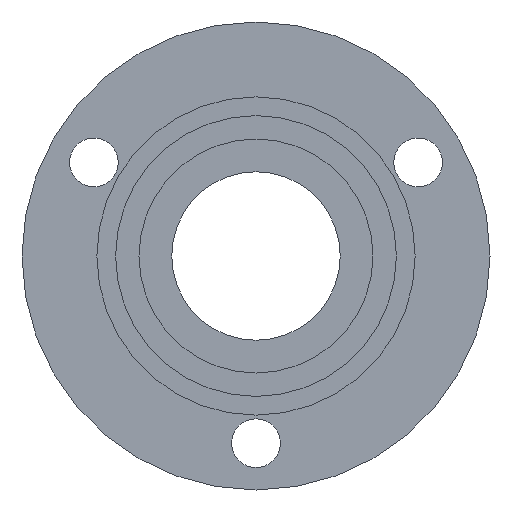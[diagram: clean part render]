
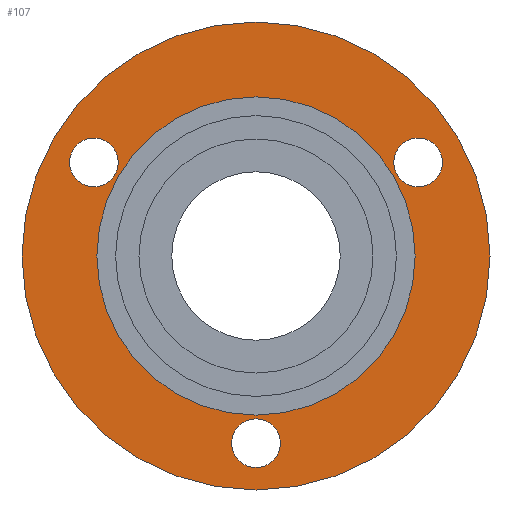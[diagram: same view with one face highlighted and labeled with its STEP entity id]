
A CAD part, front view. The second image highlights one B-rep face of the part: STEP entity #107.
In plain terms, the highlighted planar face has unit normal (0, -1, 0).
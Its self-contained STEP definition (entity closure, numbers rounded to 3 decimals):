
#107 = ADVANCED_FACE( '', ( #248, #249, #250, #251, #252 ), #253, .F. );
#248 = FACE_BOUND( '', #441, .T. );
#249 = FACE_BOUND( '', #442, .T. );
#250 = FACE_BOUND( '', #443, .T. );
#251 = FACE_BOUND( '', #444, .T. );
#252 = FACE_OUTER_BOUND( '', #445, .T. );
#253 = PLANE( '', #446 );
#441 = EDGE_LOOP( '', ( #722 ) );
#442 = EDGE_LOOP( '', ( #723 ) );
#443 = EDGE_LOOP( '', ( #724 ) );
#444 = EDGE_LOOP( '', ( #725 ) );
#445 = EDGE_LOOP( '', ( #726 ) );
#446 = AXIS2_PLACEMENT_3D( '', #727, #728, #729 );
#722 = ORIENTED_EDGE( '', *, *, #1108, .T. );
#723 = ORIENTED_EDGE( '', *, *, #1109, .T. );
#724 = ORIENTED_EDGE( '', *, *, #1110, .T. );
#725 = ORIENTED_EDGE( '', *, *, #1111, .F. );
#726 = ORIENTED_EDGE( '', *, *, #1112, .T. );
#727 = CARTESIAN_POINT( '', ( 0., 4.8, 17. ) );
#728 = DIRECTION( '', ( 0., 1., 0. ) );
#729 = DIRECTION( '', ( 0., 0., 1. ) );
#1108 = EDGE_CURVE( '', #1332, #1332, #1333, .T. );
#1109 = EDGE_CURVE( '', #1334, #1334, #1335, .T. );
#1110 = EDGE_CURVE( '', #1336, #1336, #1337, .T. );
#1111 = EDGE_CURVE( '', #1338, #1338, #1339, .T. );
#1112 = EDGE_CURVE( '', #1340, #1340, #1341, .T. );
#1332 = VERTEX_POINT( '', #1646 );
#1333 = CIRCLE( '', #1647, 2.6 );
#1334 = VERTEX_POINT( '', #1648 );
#1335 = CIRCLE( '', #1649, 2.6 );
#1336 = VERTEX_POINT( '', #1650 );
#1337 = CIRCLE( '', #1651, 2.6 );
#1338 = VERTEX_POINT( '', #1652 );
#1339 = CIRCLE( '', #1653, 17. );
#1340 = VERTEX_POINT( '', #1654 );
#1341 = CIRCLE( '', #1655, 25. );
#1646 = CARTESIAN_POINT( '', ( -15.069, 4.8, 8.7 ) );
#1647 = AXIS2_PLACEMENT_3D( '', #2073, #2074, #2075 );
#1648 = CARTESIAN_POINT( '', ( 15.069, 4.8, 8.7 ) );
#1649 = AXIS2_PLACEMENT_3D( '', #2076, #2077, #2078 );
#1650 = CARTESIAN_POINT( '', ( 0., 4.8, -17.4 ) );
#1651 = AXIS2_PLACEMENT_3D( '', #2079, #2080, #2081 );
#1652 = CARTESIAN_POINT( '', ( 0., 4.8, -17. ) );
#1653 = AXIS2_PLACEMENT_3D( '', #2082, #2083, #2084 );
#1654 = CARTESIAN_POINT( '', ( 0., 4.8, -25. ) );
#1655 = AXIS2_PLACEMENT_3D( '', #2085, #2086, #2087 );
#2073 = CARTESIAN_POINT( '', ( -17.321, 4.8, 10. ) );
#2074 = DIRECTION( '', ( 0., 1., 0. ) );
#2075 = DIRECTION( '', ( 0.866, 0., -0.5 ) );
#2076 = CARTESIAN_POINT( '', ( 17.321, 4.8, 10. ) );
#2077 = DIRECTION( '', ( 0., 1., 0. ) );
#2078 = DIRECTION( '', ( -0.866, 0., -0.5 ) );
#2079 = CARTESIAN_POINT( '', ( 0., 4.8, -20. ) );
#2080 = DIRECTION( '', ( 0., 1., 0. ) );
#2081 = DIRECTION( '', ( 0., 0., 1. ) );
#2082 = CARTESIAN_POINT( '', ( 0., 4.8, 0. ) );
#2083 = DIRECTION( '', ( 0., -1., 0. ) );
#2084 = DIRECTION( '', ( 0., 0., -1. ) );
#2085 = CARTESIAN_POINT( '', ( 0., 4.8, 0. ) );
#2086 = DIRECTION( '', ( 0., -1., 0. ) );
#2087 = DIRECTION( '', ( 0., 0., -1. ) );
